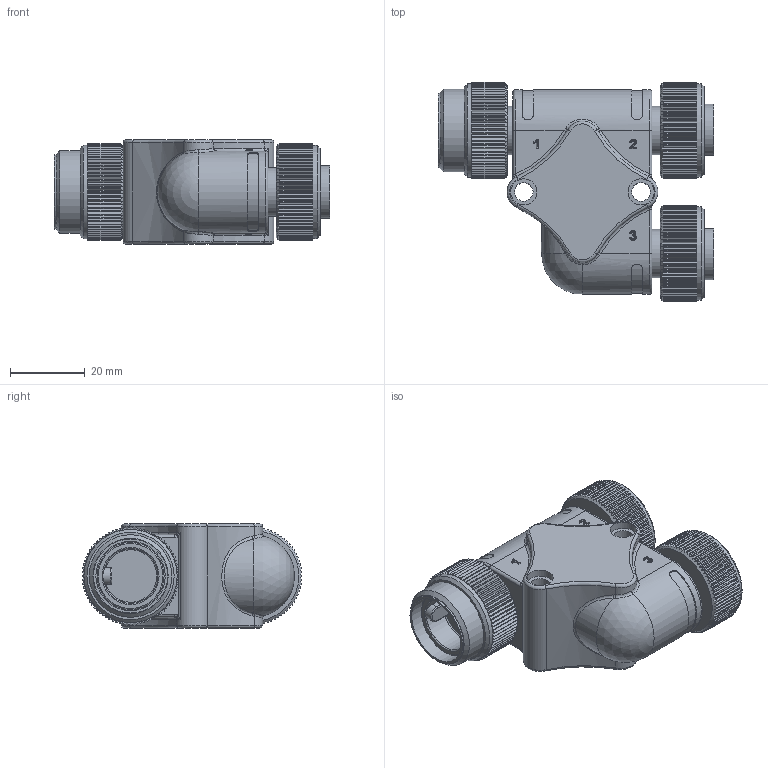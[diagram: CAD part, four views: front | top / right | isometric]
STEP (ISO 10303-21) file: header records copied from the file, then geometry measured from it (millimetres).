
FILE_DESCRIPTION (( 'STEP AP203' ), '1' );
FILE_NAME ('XSH-RSM-2RKM-K1T.step', '2019-12-23T13:41:36', ( '' ), ( '' ), 'SwSTEP 2.0', 'SolidWorks 2017', '' );
FILE_SCHEMA (( 'CONFIG_CONTROL_DESIGN' ));
Length unit declared in the file: millimetre
Products named in the file (1): XSH-RSM-2RKM-K1T
Bounding box: 74 x 59 x 28 mm (x, y, z)
Volume: 58584.3 mm3; surface area: 18562.9 mm2
Topology: 1 solids, 3 shells, 1152 faces, 3042 edges, 1921 vertices
Faces by surface type: plane 640, cylinder 334, bspline 133, torus 35, cone 9, sphere 1
Full cylindrical faces by diameter (mm): 5 x2, 7 x4, 13 x3, 18 x3, 18.6 x1, 19.9 x1, 20.638 x2, 22.2 x1, 22.5 x2, 25 x3
Entity records: 41734 total; most frequent: CARTESIAN_POINT 15077, ORIENTED_EDGE 5988, DIRECTION 4986, EDGE_CURVE 2994, VERTEX_POINT 1912, AXIS2_PLACEMENT_3D 1783, VECTOR 1420, LINE 1420
